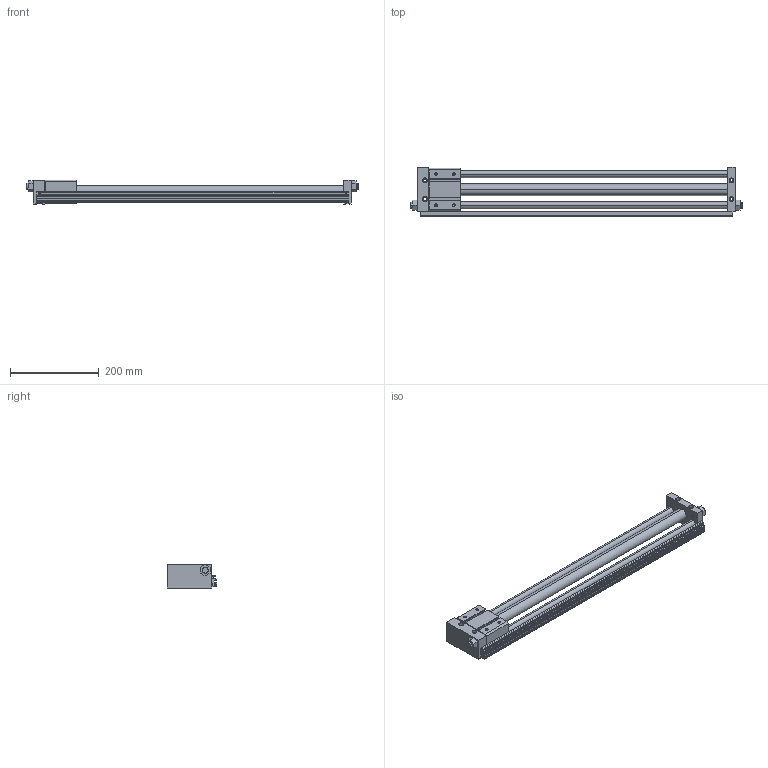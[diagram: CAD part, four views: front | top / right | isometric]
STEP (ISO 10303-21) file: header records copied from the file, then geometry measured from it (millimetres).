
FILE_DESCRIPTION((''),'2;1');
FILE_NAME('C:\Documents and Settings\Administrator\桌面\GYS\GYS25\GYSR25X600.stp','2012-03-06T10:25:53',('Administrator'),(''),'Autodesk Inventor 8','Autodesk Inventor 8','');
FILE_SCHEMA(('AUTOMOTIVE_DESIGN { 1 0 10303 214 1 1 1 1 }'));
Length unit declared in the file: millimetre
Products named in the file (3): GYSR25X600; GYS25X600; GYS25160X600
Assembly tree (2 placements, depth 2):
  GYSR25X600
    GYS25X600
    GYS25160X600
Bounding box: 747 x 110.5 x 54 mm (x, y, z)
Volume: 1221348.9 mm3; surface area: 267054.5 mm2
Topology: 2 solids, 2 shells, 276 faces, 718 edges, 468 vertices
Faces by surface type: plane 154, cylinder 80, cone 32, bspline 10
Entity records: 8662 total; most frequent: CARTESIAN_POINT 1609, DIRECTION 1476, ORIENTED_EDGE 1436, EDGE_CURVE 718, VECTOR 502, LINE 502, AXIS2_PLACEMENT_3D 487, VERTEX_POINT 468
